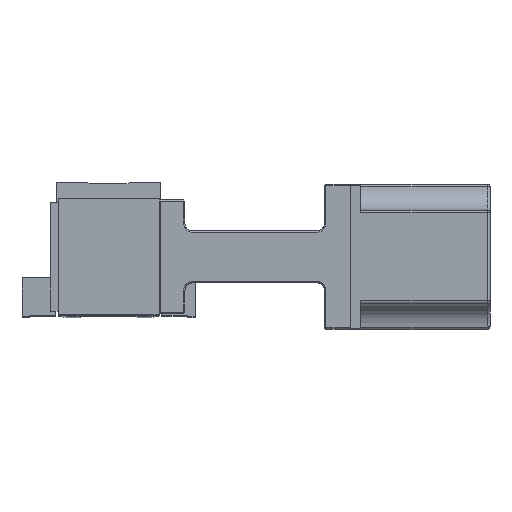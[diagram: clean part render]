
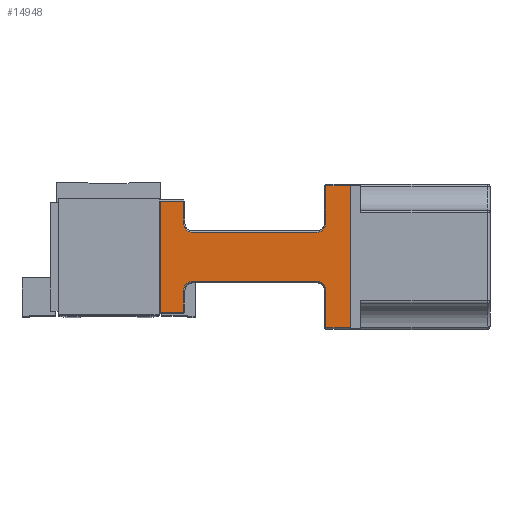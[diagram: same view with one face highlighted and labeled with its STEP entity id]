
A CAD part, top view. The second image highlights one B-rep face of the part: STEP entity #14948.
In plain terms, the highlighted planar face has unit normal (0, 0, 1).
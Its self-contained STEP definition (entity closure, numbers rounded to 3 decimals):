
#7033 = CARTESIAN_POINT ( 'NONE',  ( 84., 27.5, 386. ) ) ;
#7121 = AXIS2_PLACEMENT_3D ( 'NONE', #7177, #7176, #7175 ) ;
#7122 = FACE_OUTER_BOUND ( 'NONE', #14973, .T. ) ;
#7124 = DIRECTION ( 'NONE',  ( 0., 1., 0. ) ) ;
#7125 = VECTOR ( 'NONE', #7124, 1000. ) ;
#7126 = CARTESIAN_POINT ( 'NONE',  ( 29., 22., 386. ) ) ;
#7127 = PLANE ( 'NONE',  #7121 ) ;
#7128 = CARTESIAN_POINT ( 'NONE',  ( 29., 13., 386. ) ) ;
#7131 = DIRECTION ( 'NONE',  ( -1., 0., 0. ) ) ;
#7132 = DIRECTION ( 'NONE',  ( 0., 0., -1. ) ) ;
#7133 = CARTESIAN_POINT ( 'NONE',  ( 32.5, 13., 386. ) ) ;
#7138 = AXIS2_PLACEMENT_3D ( 'NONE', #7133, #7132, #7131 ) ;
#7141 = CARTESIAN_POINT ( 'NONE',  ( 29., -21.5, 386. ) ) ;
#7142 = LINE ( 'NONE', #7126, #7125 ) ;
#7150 = CIRCLE ( 'NONE', #7138, 3.5 ) ;
#7152 = CARTESIAN_POINT ( 'NONE',  ( 29., -13., 386. ) ) ;
#7170 = DIRECTION ( 'NONE',  ( -1., 0., 0. ) ) ;
#7171 = VECTOR ( 'NONE', #7170, 1000. ) ;
#7175 = DIRECTION ( 'NONE',  ( -1., 0., 0. ) ) ;
#7176 = DIRECTION ( 'NONE',  ( 0., 0., -1. ) ) ;
#7177 = CARTESIAN_POINT ( 'NONE',  ( 29.5, 22., 386. ) ) ;
#7178 = CARTESIAN_POINT ( 'NONE',  ( 29.5, 27.5, 386. ) ) ;
#7179 = LINE ( 'NONE', #7178, #7171 ) ;
#7203 = CARTESIAN_POINT ( 'NONE',  ( 93.5, -27.5, 386. ) ) ;
#7205 = DIRECTION ( 'NONE',  ( 0., -1., 0. ) ) ;
#7206 = VECTOR ( 'NONE', #7205, 1000. ) ;
#7207 = CARTESIAN_POINT ( 'NONE',  ( 93.5, 27.5, 386. ) ) ;
#7208 = CARTESIAN_POINT ( 'NONE',  ( 93.5, -28., 386. ) ) ;
#7211 = LINE ( 'NONE', #7208, #7206 ) ;
#7214 = DIRECTION ( 'NONE',  ( 0., -1., 0. ) ) ;
#7215 = VECTOR ( 'NONE', #7214, 1000. ) ;
#7216 = AXIS2_PLACEMENT_3D ( 'NONE', #7253, #7302, #7301 ) ;
#7217 = CARTESIAN_POINT ( 'NONE',  ( 29.5, -27.5, 386. ) ) ;
#7218 = DIRECTION ( 'NONE',  ( -1., 0., 0. ) ) ;
#7219 = DIRECTION ( 'NONE',  ( 0., 0., -1. ) ) ;
#7220 = CARTESIAN_POINT ( 'NONE',  ( 84., -13., 386. ) ) ;
#7221 = DIRECTION ( 'NONE',  ( 1., 0., 0. ) ) ;
#7222 = VECTOR ( 'NONE', #7221, 1000. ) ;
#7223 = CARTESIAN_POINT ( 'NONE',  ( 32.5, -9.5, 386. ) ) ;
#7224 = CARTESIAN_POINT ( 'NONE',  ( 84., 22., 386. ) ) ;
#7225 = LINE ( 'NONE', #7224, #7215 ) ;
#7226 = DIRECTION ( 'NONE',  ( -1., 0., 0. ) ) ;
#7227 = DIRECTION ( 'NONE',  ( 0., 0., -1. ) ) ;
#7228 = CARTESIAN_POINT ( 'NONE',  ( 32.5, -13., 386. ) ) ;
#7229 = AXIS2_PLACEMENT_3D ( 'NONE', #7228, #7227, #7226 ) ;
#7230 = AXIS2_PLACEMENT_3D ( 'NONE', #7236, #7219, #7218 ) ;
#7231 = LINE ( 'NONE', #7217, #7273 ) ;
#7234 = CARTESIAN_POINT ( 'NONE',  ( 29.5, -9.5, 386. ) ) ;
#7235 = LINE ( 'NONE', #7234, #7222 ) ;
#7236 = CARTESIAN_POINT ( 'NONE',  ( 80.5, -13., 386. ) ) ;
#7237 = CIRCLE ( 'NONE', #7230, 3.5 ) ;
#7238 = CIRCLE ( 'NONE', #7229, 3.5 ) ;
#7243 = CARTESIAN_POINT ( 'NONE',  ( 20., -21.5, 386. ) ) ;
#7244 = CARTESIAN_POINT ( 'NONE',  ( 20., -22., 386. ) ) ;
#7245 = LINE ( 'NONE', #7244, #7308 ) ;
#7246 = DIRECTION ( 'NONE',  ( -1., 0., 0. ) ) ;
#7247 = VECTOR ( 'NONE', #7246, 1000. ) ;
#7248 = CARTESIAN_POINT ( 'NONE',  ( 29.5, 9.5, 386. ) ) ;
#7250 = DIRECTION ( 'NONE',  ( 1., 0., 0. ) ) ;
#7251 = VECTOR ( 'NONE', #7250, 1000. ) ;
#7252 = CARTESIAN_POINT ( 'NONE',  ( 29.5, -21.5, 386. ) ) ;
#7253 = CARTESIAN_POINT ( 'NONE',  ( 80.5, 13., 386. ) ) ;
#7255 = LINE ( 'NONE', #7248, #7247 ) ;
#7256 = LINE ( 'NONE', #7252, #7251 ) ;
#7257 = CARTESIAN_POINT ( 'NONE',  ( 84., 13., 386. ) ) ;
#7258 = DIRECTION ( 'NONE',  ( 0., -1., 0. ) ) ;
#7259 = VECTOR ( 'NONE', #7258, 1000. ) ;
#7260 = CARTESIAN_POINT ( 'NONE',  ( 29., 21.5, 386. ) ) ;
#7261 = CARTESIAN_POINT ( 'NONE',  ( 20., 21.5, 386. ) ) ;
#7262 = CIRCLE ( 'NONE', #7216, 3.5 ) ;
#7263 = CARTESIAN_POINT ( 'NONE',  ( 84., 22., 386. ) ) ;
#7264 = LINE ( 'NONE', #7263, #7259 ) ;
#7265 = CARTESIAN_POINT ( 'NONE',  ( 80.5, 9.5, 386. ) ) ;
#7266 = CARTESIAN_POINT ( 'NONE',  ( 32.5, 9.5, 386. ) ) ;
#7267 = DIRECTION ( 'NONE',  ( 0., 1., 0. ) ) ;
#7268 = VECTOR ( 'NONE', #7267, 1000. ) ;
#7269 = CARTESIAN_POINT ( 'NONE',  ( 84., -27.5, 386. ) ) ;
#7270 = CARTESIAN_POINT ( 'NONE',  ( 29., 22., 386. ) ) ;
#7271 = LINE ( 'NONE', #7270, #7268 ) ;
#7272 = DIRECTION ( 'NONE',  ( 1., 0., 0. ) ) ;
#7273 = VECTOR ( 'NONE', #7272, 1000. ) ;
#7274 = CARTESIAN_POINT ( 'NONE',  ( 80.5, -9.5, 386. ) ) ;
#7293 = DIRECTION ( 'NONE',  ( -1., 0., 0. ) ) ;
#7294 = VECTOR ( 'NONE', #7293, 1000. ) ;
#7295 = CARTESIAN_POINT ( 'NONE',  ( 29.5, 21.5, 386. ) ) ;
#7296 = LINE ( 'NONE', #7295, #7294 ) ;
#7301 = DIRECTION ( 'NONE',  ( -1., 0., 0. ) ) ;
#7302 = DIRECTION ( 'NONE',  ( 0., 0., -1. ) ) ;
#7307 = DIRECTION ( 'NONE',  ( 0., -1., 0. ) ) ;
#7308 = VECTOR ( 'NONE', #7307, 1000. ) ;
#14879 = VERTEX_POINT ( 'NONE', #7033 ) ;
#14939 = EDGE_CURVE ( 'NONE', #15014, #14945, #7150, .T. ) ;
#14940 = VERTEX_POINT ( 'NONE', #7141 ) ;
#14941 = ORIENTED_EDGE ( 'NONE', *, *, #14942, .T. ) ;
#14942 = EDGE_CURVE ( 'NONE', #14945, #15017, #7142, .T. ) ;
#14944 = VERTEX_POINT ( 'NONE', #7152 ) ;
#14945 = VERTEX_POINT ( 'NONE', #7128 ) ;
#14948 = ADVANCED_FACE ( 'NONE', ( #7122 ), #7127, .F. ) ;
#14949 = ORIENTED_EDGE ( 'NONE', *, *, #14965, .F. ) ;
#14950 = EDGE_CURVE ( 'NONE', #14970, #14879, #7179, .T. ) ;
#14951 = ORIENTED_EDGE ( 'NONE', *, *, #15013, .T. ) ;
#14952 = ORIENTED_EDGE ( 'NONE', *, *, #14950, .T. ) ;
#14965 = EDGE_CURVE ( 'NONE', #14970, #14971, #7211, .T. ) ;
#14970 = VERTEX_POINT ( 'NONE', #7207 ) ;
#14971 = VERTEX_POINT ( 'NONE', #7203 ) ;
#14973 = EDGE_LOOP ( 'NONE', ( #14949, #14952, #14951, #15021, #15019, #15027, #14941, #15004, #15006, #15009, #15012, #14992, #14994, #14996, #14999, #14998 ) ) ;
#14990 = EDGE_CURVE ( 'NONE', #14944, #15002, #7238, .T. ) ;
#14992 = ORIENTED_EDGE ( 'NONE', *, *, #14990, .T. ) ;
#14993 = EDGE_CURVE ( 'NONE', #15002, #15005, #7235, .T. ) ;
#14994 = ORIENTED_EDGE ( 'NONE', *, *, #14993, .T. ) ;
#14995 = EDGE_CURVE ( 'NONE', #15005, #15008, #7237, .T. ) ;
#14996 = ORIENTED_EDGE ( 'NONE', *, *, #14995, .T. ) ;
#14997 = EDGE_CURVE ( 'NONE', #15008, #15011, #7225, .T. ) ;
#14998 = ORIENTED_EDGE ( 'NONE', *, *, #15000, .T. ) ;
#14999 = ORIENTED_EDGE ( 'NONE', *, *, #14997, .T. ) ;
#15000 = EDGE_CURVE ( 'NONE', #15011, #14971, #7231, .T. ) ;
#15002 = VERTEX_POINT ( 'NONE', #7223 ) ;
#15003 = EDGE_CURVE ( 'NONE', #14940, #14944, #7271, .T. ) ;
#15004 = ORIENTED_EDGE ( 'NONE', *, *, #15026, .T. ) ;
#15005 = VERTEX_POINT ( 'NONE', #7274 ) ;
#15006 = ORIENTED_EDGE ( 'NONE', *, *, #15023, .T. ) ;
#15008 = VERTEX_POINT ( 'NONE', #7220 ) ;
#15009 = ORIENTED_EDGE ( 'NONE', *, *, #15020, .T. ) ;
#15011 = VERTEX_POINT ( 'NONE', #7269 ) ;
#15012 = ORIENTED_EDGE ( 'NONE', *, *, #15003, .T. ) ;
#15013 = EDGE_CURVE ( 'NONE', #14879, #15018, #7264, .T. ) ;
#15014 = VERTEX_POINT ( 'NONE', #7266 ) ;
#15015 = VERTEX_POINT ( 'NONE', #7261 ) ;
#15016 = VERTEX_POINT ( 'NONE', #7265 ) ;
#15017 = VERTEX_POINT ( 'NONE', #7260 ) ;
#15018 = VERTEX_POINT ( 'NONE', #7257 ) ;
#15019 = ORIENTED_EDGE ( 'NONE', *, *, #15022, .T. ) ;
#15020 = EDGE_CURVE ( 'NONE', #15025, #14940, #7256, .T. ) ;
#15021 = ORIENTED_EDGE ( 'NONE', *, *, #15024, .T. ) ;
#15022 = EDGE_CURVE ( 'NONE', #15016, #15014, #7255, .T. ) ;
#15023 = EDGE_CURVE ( 'NONE', #15015, #15025, #7245, .T. ) ;
#15024 = EDGE_CURVE ( 'NONE', #15018, #15016, #7262, .T. ) ;
#15025 = VERTEX_POINT ( 'NONE', #7243 ) ;
#15026 = EDGE_CURVE ( 'NONE', #15017, #15015, #7296, .T. ) ;
#15027 = ORIENTED_EDGE ( 'NONE', *, *, #14939, .T. ) ;
